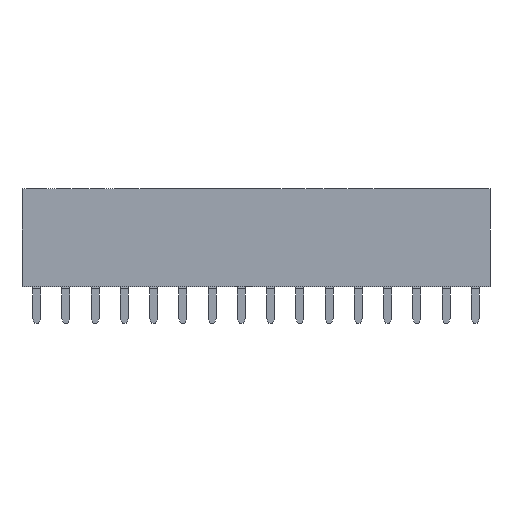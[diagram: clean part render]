
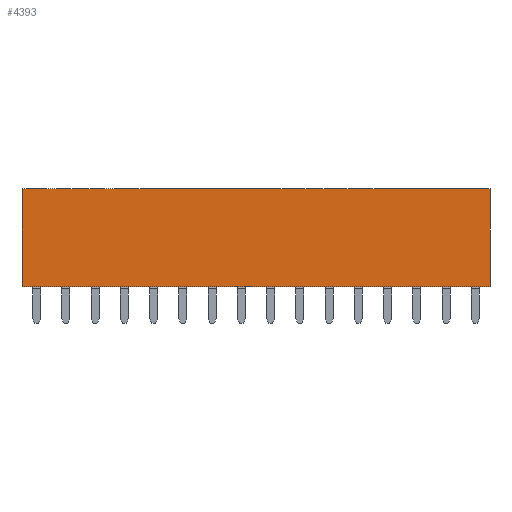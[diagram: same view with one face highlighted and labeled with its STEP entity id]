
A CAD part, front view. The second image highlights one B-rep face of the part: STEP entity #4393.
In plain terms, the highlighted planar face has unit normal (0, -1, 0).
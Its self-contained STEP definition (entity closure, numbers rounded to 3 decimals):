
#17 = VECTOR ( 'NONE', #4488, 1000. ) ;
#41 = CARTESIAN_POINT ( 'NONE',  ( 20.32, -1.5, 0. ) ) ;
#209 = VECTOR ( 'NONE', #4333, 1000. ) ;
#260 = CARTESIAN_POINT ( 'NONE',  ( -20.32, -1.5, 0. ) ) ;
#438 = FACE_OUTER_BOUND ( 'NONE', #2283, .T. ) ;
#863 = LINE ( 'NONE', #4808, #2675 ) ;
#888 = EDGE_CURVE ( 'NONE', #3023, #3041, #3946, .T. ) ;
#1034 = CARTESIAN_POINT ( 'NONE',  ( -20.32, -1.5, 4.25 ) ) ;
#1139 = AXIS2_PLACEMENT_3D ( 'NONE', #2898, #1234, #2978 ) ;
#1234 = DIRECTION ( 'NONE',  ( 0., 1., 0. ) ) ;
#1364 = CARTESIAN_POINT ( 'NONE',  ( 0., -1.5, 8.5 ) ) ;
#1733 = DIRECTION ( 'NONE',  ( 0., 0., 1. ) ) ;
#2283 = EDGE_LOOP ( 'NONE', ( #2761, #2579, #4663, #4633 ) ) ;
#2472 = PLANE ( 'NONE',  #1139 ) ;
#2579 = ORIENTED_EDGE ( 'NONE', *, *, #888, .F. ) ;
#2675 = VECTOR ( 'NONE', #1733, 1000. ) ;
#2761 = ORIENTED_EDGE ( 'NONE', *, *, #3715, .T. ) ;
#2859 = CARTESIAN_POINT ( 'NONE',  ( 20.32, -1.5, 8.5 ) ) ;
#2898 = CARTESIAN_POINT ( 'NONE',  ( 20.32, -1.5, 0. ) ) ;
#2978 = DIRECTION ( 'NONE',  ( -1., 0., 0. ) ) ;
#3023 = VERTEX_POINT ( 'NONE', #3307 ) ;
#3041 = VERTEX_POINT ( 'NONE', #2859 ) ;
#3145 = LINE ( 'NONE', #3478, #209 ) ;
#3307 = CARTESIAN_POINT ( 'NONE',  ( -20.32, -1.5, 8.5 ) ) ;
#3478 = CARTESIAN_POINT ( 'NONE',  ( 0., -1.5, 0. ) ) ;
#3691 = LINE ( 'NONE', #1034, #17 ) ;
#3715 = EDGE_CURVE ( 'NONE', #3788, #3041, #863, .T. ) ;
#3788 = VERTEX_POINT ( 'NONE', #41 ) ;
#3946 = LINE ( 'NONE', #1364, #4479 ) ;
#4040 = EDGE_CURVE ( 'NONE', #4238, #3023, #3691, .T. ) ;
#4238 = VERTEX_POINT ( 'NONE', #260 ) ;
#4333 = DIRECTION ( 'NONE',  ( 1., 0., 0. ) ) ;
#4393 = ADVANCED_FACE ( 'NONE', ( #438 ), #2472, .F. ) ;
#4479 = VECTOR ( 'NONE', #4851, 1000. ) ;
#4488 = DIRECTION ( 'NONE',  ( 0., 0., 1. ) ) ;
#4633 = ORIENTED_EDGE ( 'NONE', *, *, #5574, .T. ) ;
#4663 = ORIENTED_EDGE ( 'NONE', *, *, #4040, .F. ) ;
#4808 = CARTESIAN_POINT ( 'NONE',  ( 20.32, -1.5, 4.25 ) ) ;
#4851 = DIRECTION ( 'NONE',  ( 1., 0., 0. ) ) ;
#5574 = EDGE_CURVE ( 'NONE', #4238, #3788, #3145, .T. ) ;
